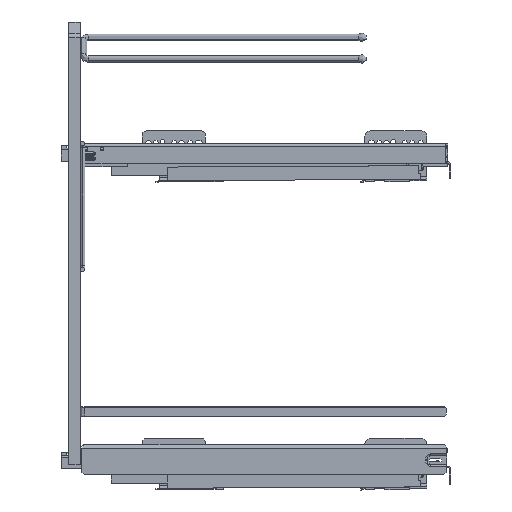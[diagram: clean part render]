
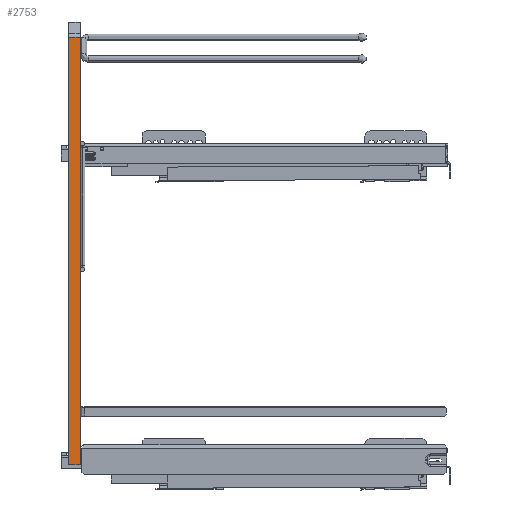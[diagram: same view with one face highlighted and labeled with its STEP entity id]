
A CAD part, left-side view. The second image highlights one B-rep face of the part: STEP entity #2753.
In plain terms, the highlighted planar face has unit normal (-1, 0, 0).
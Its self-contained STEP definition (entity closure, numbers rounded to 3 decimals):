
#2753=ADVANCED_FACE('',(#5682),#5683,.T.);
#5682=FACE_OUTER_BOUND('',#10541,.T.);
#5683=PLANE('',#10542);
#10541=EDGE_LOOP('',(#19027,#19028,#19029,#19030));
#10542=AXIS2_PLACEMENT_3D('',#19031,#19032,#19033);
#19027=ORIENTED_EDGE('',*,*,#22725,.T.);
#19028=ORIENTED_EDGE('',*,*,#22731,.T.);
#19029=ORIENTED_EDGE('',*,*,#22733,.F.);
#19030=ORIENTED_EDGE('',*,*,#22734,.F.);
#19031=CARTESIAN_POINT('',(-85.,476.748,31.328));
#19032=DIRECTION('',(-1.0,0.,0.));
#19033=DIRECTION('',(0.,-1.0,0.));
#22725=EDGE_CURVE('',#28056,#28053,#28057,.T.);
#22731=EDGE_CURVE('',#28053,#28064,#28066,.T.);
#22733=EDGE_CURVE('',#28068,#28064,#28069,.T.);
#22734=EDGE_CURVE('',#28056,#28068,#28070,.T.);
#28053=VERTEX_POINT('',#36145);
#28056=VERTEX_POINT('',#36148);
#28057=LINE('',#36149,#36150);
#28064=VERTEX_POINT('',#36159);
#28066=LINE('',#36161,#36162);
#28068=VERTEX_POINT('',#36164);
#28069=LINE('',#36165,#36166);
#28070=LINE('',#36167,#36168);
#36145=CARTESIAN_POINT('',(-85.,462.552,31.328));
#36148=CARTESIAN_POINT('',(-85.,476.748,31.328));
#36149=CARTESIAN_POINT('',(-85.,476.748,31.328));
#36150=VECTOR('',#40481,1.0);
#36159=CARTESIAN_POINT('',(-85.,462.552,565.324));
#36161=CARTESIAN_POINT('',(-85.,462.552,31.328));
#36162=VECTOR('',#40490,1.0);
#36164=CARTESIAN_POINT('',(-85.,476.748,565.324));
#36165=CARTESIAN_POINT('',(-85.,476.748,565.324));
#36166=VECTOR('',#40491,1.0);
#36167=CARTESIAN_POINT('',(-85.,476.748,31.328));
#36168=VECTOR('',#40492,1.0);
#40481=DIRECTION('',(0.,-1.0,0.));
#40490=DIRECTION('',(0.,0.0,1.0));
#40491=DIRECTION('',(0.,-1.0,0.));
#40492=DIRECTION('',(0.,0.0,1.0));
